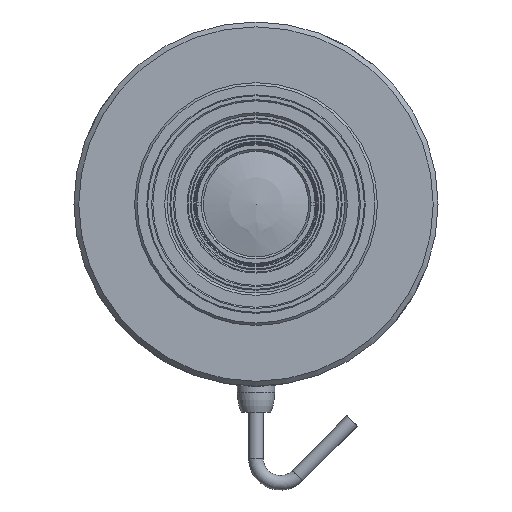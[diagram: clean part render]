
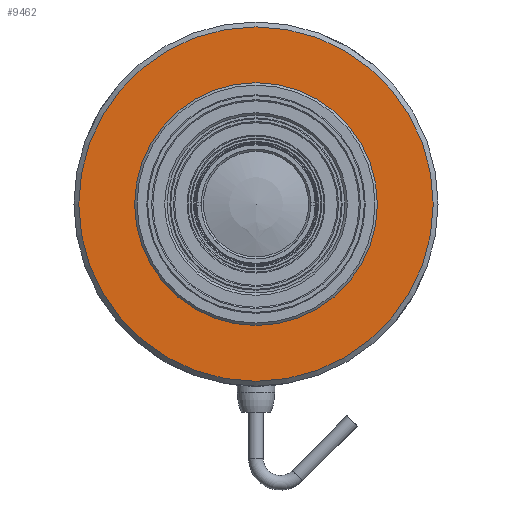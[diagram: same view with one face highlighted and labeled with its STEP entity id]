
A CAD part, front view. The second image highlights one B-rep face of the part: STEP entity #9462.
In plain terms, the highlighted planar face has unit normal (0, -1, 0).
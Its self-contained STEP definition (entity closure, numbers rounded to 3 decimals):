
#218=CIRCLE('',#9927,36.5);
#223=CIRCLE('',#9941,25.);
#990=ORIENTED_EDGE('',*,*,#2438,.T.);
#991=ORIENTED_EDGE('',*,*,#2433,.F.);
#2433=EDGE_CURVE('',#3212,#3212,#218,.T.);
#2438=EDGE_CURVE('',#3217,#3217,#223,.T.);
#3212=VERTEX_POINT('',#12992);
#3217=VERTEX_POINT('',#13011);
#5067=EDGE_LOOP('',(#990));
#5068=EDGE_LOOP('',(#991));
#5671=FACE_BOUND('',#5067,.T.);
#5672=FACE_BOUND('',#5068,.T.);
#6208=PLANE('',#9942);
#9462=ADVANCED_FACE('',(#5671,#5672),#6208,.F.);
#9927=AXIS2_PLACEMENT_3D('',#12991,#10968,#10969);
#9941=AXIS2_PLACEMENT_3D('',#13010,#10996,#10997);
#9942=AXIS2_PLACEMENT_3D('',#13012,#10998,#10999);
#10968=DIRECTION('',(0.,1.,0.));
#10969=DIRECTION('',(0.,0.,1.));
#10996=DIRECTION('',(0.,1.,0.));
#10997=DIRECTION('',(0.,0.,1.));
#10998=DIRECTION('',(0.,1.,0.));
#10999=DIRECTION('',(0.,0.,1.));
#12991=CARTESIAN_POINT('',(0.,-71.383,0.));
#12992=CARTESIAN_POINT('',(0.,-71.383,36.5));
#13010=CARTESIAN_POINT('',(0.,-71.383,0.));
#13011=CARTESIAN_POINT('',(0.,-71.383,25.));
#13012=CARTESIAN_POINT('',(0.,-71.383,37.5));
